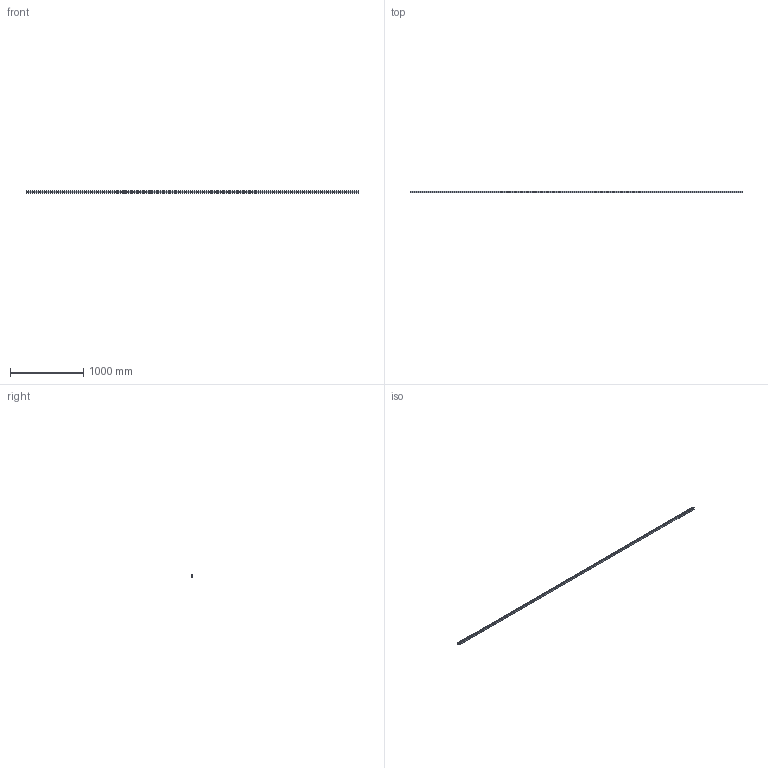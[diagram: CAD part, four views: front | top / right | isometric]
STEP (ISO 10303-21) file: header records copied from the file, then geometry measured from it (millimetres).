
FILE_DESCRIPTION(('CATIA V5 STEP Exchange'),'2;1');
FILE_NAME('C:\Users\14044\Desktop\HSV_3DCAD\HSV30R1SS+3000L\HSV30_RAIL_4520L.stp','2015-11-25T07:47:07+00:00',('none'),('none'),'Version 5-6 Release 2012','CATIA V5 STEP AP203','none');
FILE_SCHEMA(('CONFIG_CONTROL_DESIGN'));
Length unit declared in the file: millimetre
Products named in the file (1): HSV30_RAIL_4520L
Bounding box: 4520 x 26 x 28 mm (x, y, z)
Volume: 2659273.9 mm3; surface area: 547059.8 mm2
Topology: 1 solids, 1 shells, 311 faces, 756 edges, 678 vertices
Faces by surface type: cylinder 232, plane 79
Entity records: 8500 total; most frequent: CARTESIAN_POINT 1575, ORIENTED_EDGE 1512, DIRECTION 1036, EDGE_CURVE 756, AXIS2_PLACEMENT_3D 605, VERTEX_POINT 504, EDGE_LOOP 482, CIRCLE 464
